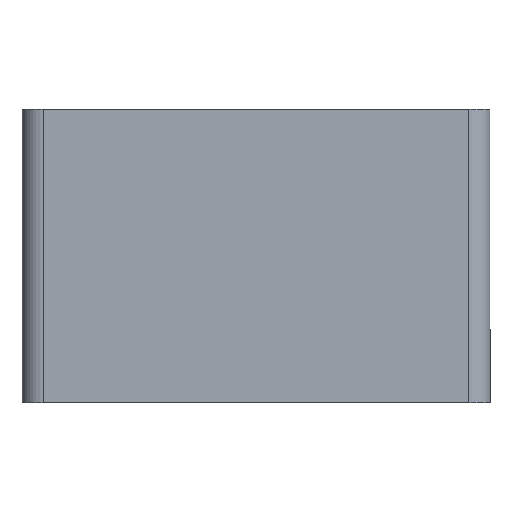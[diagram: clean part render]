
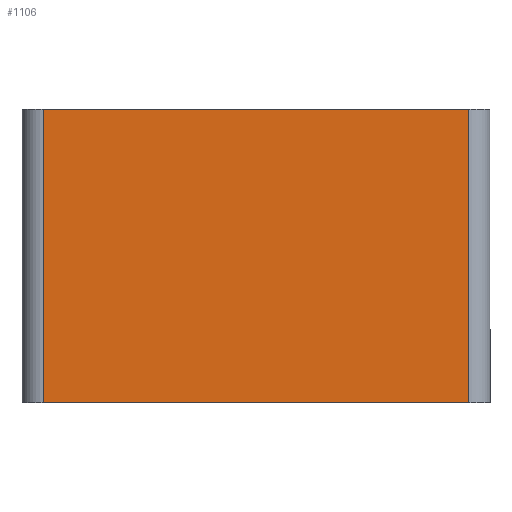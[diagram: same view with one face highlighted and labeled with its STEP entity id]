
A CAD part, front view. The second image highlights one B-rep face of the part: STEP entity #1106.
In plain terms, the highlighted planar face has unit normal (0, -1, 0).
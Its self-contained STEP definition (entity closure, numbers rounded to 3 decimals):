
#27 = CARTESIAN_POINT ( 'NONE',  ( 36.052, -94.863, 12.45 ) ) ;
#81 = EDGE_LOOP ( 'NONE', ( #394, #781, #864, #661 ) ) ;
#129 = CARTESIAN_POINT ( 'NONE',  ( -3.748, -94.863, 27.45 ) ) ;
#152 = DIRECTION ( 'NONE',  ( 0., 0., 1. ) ) ;
#176 = DIRECTION ( 'NONE',  ( 0., 0., -1. ) ) ;
#227 = VERTEX_POINT ( 'NONE', #129 ) ;
#233 = LINE ( 'NONE', #468, #404 ) ;
#237 = CARTESIAN_POINT ( 'NONE',  ( 36.052, -94.863, 27.45 ) ) ;
#276 = DIRECTION ( 'NONE',  ( 1., 0., 0. ) ) ;
#329 = VERTEX_POINT ( 'NONE', #237 ) ;
#373 = LINE ( 'NONE', #27, #1051 ) ;
#394 = ORIENTED_EDGE ( 'NONE', *, *, #422, .F. ) ;
#404 = VECTOR ( 'NONE', #276, 1000. ) ;
#422 = EDGE_CURVE ( 'NONE', #227, #329, #233, .T. ) ;
#448 = CARTESIAN_POINT ( 'NONE',  ( -5.748, -94.863, 12.45 ) ) ;
#468 = CARTESIAN_POINT ( 'NONE',  ( -5.748, -94.863, 27.45 ) ) ;
#485 = AXIS2_PLACEMENT_3D ( 'NONE', #448, #1188, #1091 ) ;
#654 = CARTESIAN_POINT ( 'NONE',  ( -3.748, -94.863, 12.45 ) ) ;
#661 = ORIENTED_EDGE ( 'NONE', *, *, #999, .T. ) ;
#731 = CARTESIAN_POINT ( 'NONE',  ( -5.748, -94.863, 0. ) ) ;
#734 = VECTOR ( 'NONE', #1008, 1000. ) ;
#750 = PLANE ( 'NONE',  #485 ) ;
#781 = ORIENTED_EDGE ( 'NONE', *, *, #1118, .T. ) ;
#864 = ORIENTED_EDGE ( 'NONE', *, *, #1060, .T. ) ;
#885 = VECTOR ( 'NONE', #176, 1000. ) ;
#909 = VERTEX_POINT ( 'NONE', #1030 ) ;
#967 = LINE ( 'NONE', #731, #734 ) ;
#999 = EDGE_CURVE ( 'NONE', #909, #329, #373, .T. ) ;
#1008 = DIRECTION ( 'NONE',  ( 1., 0., 0. ) ) ;
#1030 = CARTESIAN_POINT ( 'NONE',  ( 36.052, -94.863, 0. ) ) ;
#1045 = VERTEX_POINT ( 'NONE', #1078 ) ;
#1051 = VECTOR ( 'NONE', #152, 1000. ) ;
#1060 = EDGE_CURVE ( 'NONE', #1045, #909, #967, .T. ) ;
#1078 = CARTESIAN_POINT ( 'NONE',  ( -3.748, -94.863, 0. ) ) ;
#1091 = DIRECTION ( 'NONE',  ( 0., 0., 1. ) ) ;
#1106 = ADVANCED_FACE ( 'NONE', ( #1176 ), #750, .F. ) ;
#1118 = EDGE_CURVE ( 'NONE', #227, #1045, #1119, .T. ) ;
#1119 = LINE ( 'NONE', #654, #885 ) ;
#1176 = FACE_OUTER_BOUND ( 'NONE', #81, .T. ) ;
#1188 = DIRECTION ( 'NONE',  ( 0., 1., 0. ) ) ;
